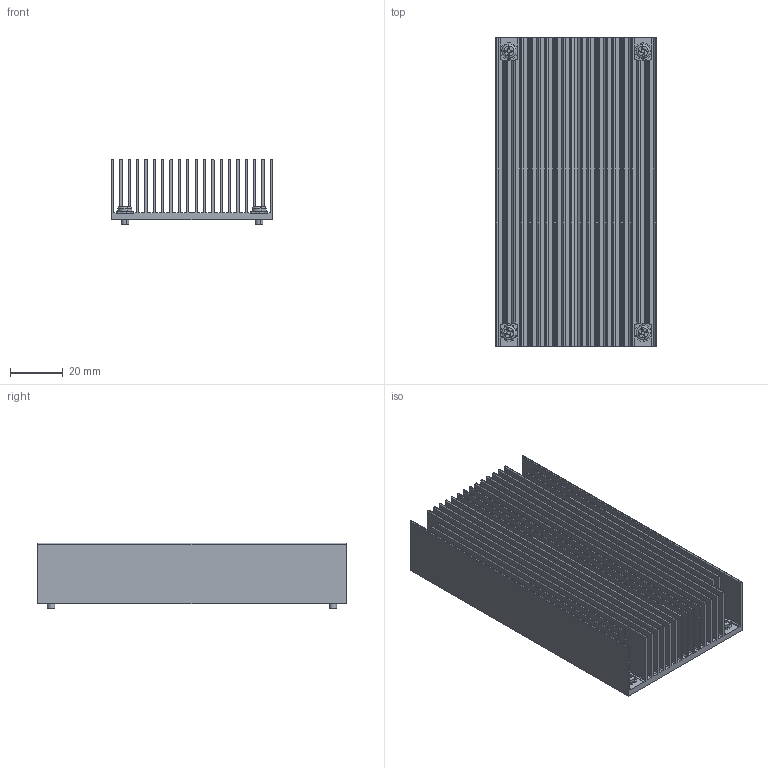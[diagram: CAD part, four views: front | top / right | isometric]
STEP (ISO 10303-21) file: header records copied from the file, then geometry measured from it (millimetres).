
FILE_DESCRIPTION (( 'STEP AP214' ), '1' );
FILE_NAME ('HS1594+K05.STEP', '2023-02-15T16:49:46', ( '' ), ( '' ), 'SwSTEP 2.0', 'SolidWorks 2020', '' );
FILE_SCHEMA (( 'AUTOMOTIVE_DESIGN' ));
Length unit declared in the file: inch
Products named in the file (1): HS1594+K05
Bounding box: 60.96 x 116.84 x 24.81 mm (x, y, z)
Volume: 59197.9 mm3; surface area: 107306.3 mm2
Topology: 5 solids, 5 shells, 572 faces, 1514 edges, 964 vertices
Faces by surface type: plane 410, cylinder 154, torus 8
Entity records: 25078 total; most frequent: CARTESIAN_POINT 3075, DIRECTION 3036, ORIENTED_EDGE 3028, EDGE_CURVE 1514, LINE 1122, VECTOR 1122, VERTEX_POINT 964, AXIS2_PLACEMENT_3D 957
